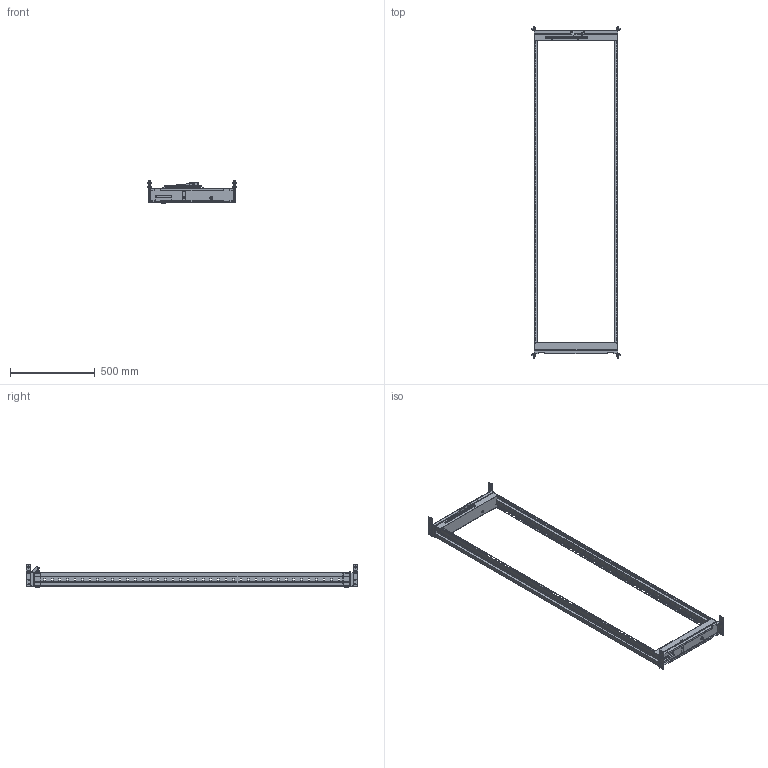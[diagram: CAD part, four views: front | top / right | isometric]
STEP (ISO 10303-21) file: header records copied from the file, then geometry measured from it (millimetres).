
FILE_DESCRIPTION(('Open CASCADE Model'),'2;1');
FILE_NAME('Open CASCADE Shape Model','2025-03-20T11:28:41',('Author'),( 'Open CASCADE'),'Open CASCADE STEP processor 7.8','Open CASCADE 7.8' ,'Unknown');
FILE_SCHEMA(('AUTOMOTIVE_DESIGN { 1 0 10303 214 1 1 1 1 }'));
Length unit declared in the file: millimetre
Products named in the file (29): Compound1; Compound2; Solid1; Solid2; Solid3; Compound3; Solid4; Solid5; Solid6; Solid7; Solid8; Solid9; Solid10; Solid11; Solid12; Solid13; Solid14; Solid15; Compound4; Solid16; Solid17; Solid18; Solid19; Solid20; Compound5; Solid21; Solid22; Solid23; Solid24
Assembly tree (48 placements, depth 3):
  Compound1
    Compound2
      Solid1
      Solid2  x2
      Solid3
    Compound3
      Solid4
      Solid2  x2
      Solid3
    Solid5  x2
    Solid6  x2
    Solid7
    Solid8
    Solid9
    Solid10
    Solid11
    Solid12
    Solid13  x2
    Solid14  x4
    Solid15  x8
    Compound4
      Solid16  x2
      Solid17
      Solid18  x2
      Solid19
      Solid20  x2
    Compound5
      Solid21
      Solid22
    Solid23
    Solid24
Bounding box: 526 x 1955 x 130.5 mm (x, y, z)
Volume: 1445982.1 mm3; surface area: 1840502.8 mm2
Topology: 44 solids, 64 shells, 4802 faces, 13907 edges, 9163 vertices
Faces by surface type: plane 3558, cylinder 598, cone 250, bspline 182, torus 156, sphere 58
Entity records: 91258 total; most frequent: CARTESIAN_POINT 22792, ORIENTED_EDGE 14456, DIRECTION 12766, EDGE_CURVE 7407, LINE 5932, VECTOR 5932, VERTEX_POINT 4912, AXIS2_PLACEMENT_3D 3417
